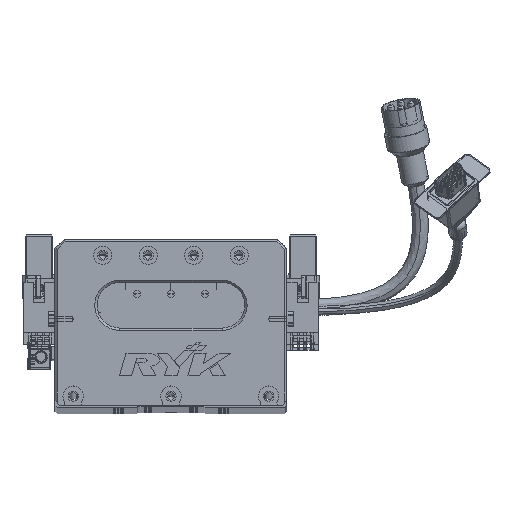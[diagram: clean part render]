
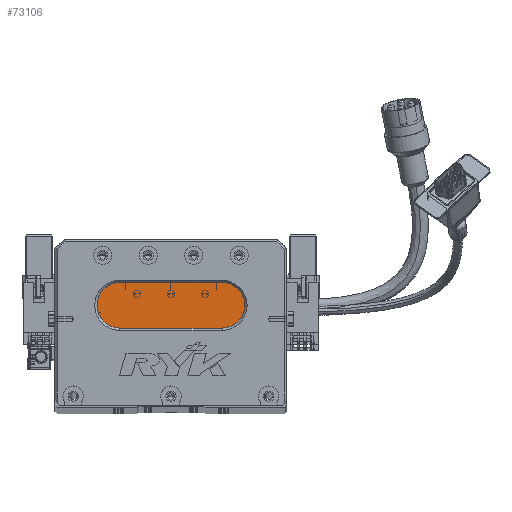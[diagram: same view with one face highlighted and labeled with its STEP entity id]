
A CAD part, top view. The second image highlights one B-rep face of the part: STEP entity #73106.
In plain terms, the highlighted planar face has unit normal (0, 0, 1) as drawn and (0, 0, -1) by its records, which use the part's own axes.
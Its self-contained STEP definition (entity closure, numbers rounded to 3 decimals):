
#4374 = VERTEX_POINT ( 'NONE', #30624 ) ;
#4600 = DIRECTION ( 'NONE',  ( -1., 0., 0. ) ) ;
#7399 = ORIENTED_EDGE ( 'NONE', *, *, #49089, .T. ) ;
#12083 = DIRECTION ( 'NONE',  ( -1., 0., 0. ) ) ;
#12478 = AXIS2_PLACEMENT_3D ( 'NONE', #56555, #67224, #4600 ) ;
#12874 = CIRCLE ( 'NONE', #29662, 10. ) ;
#18432 = DIRECTION ( 'NONE',  ( 0., 0., -1. ) ) ;
#20277 = ORIENTED_EDGE ( 'NONE', *, *, #25571, .T. ) ;
#22268 = VERTEX_POINT ( 'NONE', #38554 ) ;
#25571 = EDGE_CURVE ( 'NONE', #42929, #22268, #52075, .T. ) ;
#26838 = ORIENTED_EDGE ( 'NONE', *, *, #39830, .T. ) ;
#27688 = VECTOR ( 'NONE', #40328, 1000. ) ;
#27948 = ORIENTED_EDGE ( 'NONE', *, *, #33557, .T. ) ;
#29662 = AXIS2_PLACEMENT_3D ( 'NONE', #33204, #44278, #50345 ) ;
#30624 = CARTESIAN_POINT ( 'NONE',  ( 73.5, 34., 13. ) ) ;
#31904 = CARTESIAN_POINT ( 'NONE',  ( 28.5, 34., 13. ) ) ;
#32413 = CARTESIAN_POINT ( 'NONE',  ( 73.5, 34., 13. ) ) ;
#33204 = CARTESIAN_POINT ( 'NONE',  ( 28.5, 44., 13. ) ) ;
#33557 = EDGE_CURVE ( 'NONE', #60855, #74280, #68810, .T. ) ;
#33868 = CARTESIAN_POINT ( 'NONE',  ( 28.5, 54., 13. ) ) ;
#36289 = AXIS2_PLACEMENT_3D ( 'NONE', #52980, #18432, #47177 ) ;
#38554 = CARTESIAN_POINT ( 'NONE',  ( 73.5, 54., 13. ) ) ;
#39830 = EDGE_CURVE ( 'NONE', #22268, #4374, #49416, .T. ) ;
#40292 = DIRECTION ( 'NONE',  ( 0., 0., -1. ) ) ;
#40328 = DIRECTION ( 'NONE',  ( 1., 0., 0. ) ) ;
#40378 = AXIS2_PLACEMENT_3D ( 'NONE', #69666, #40292, #12083 ) ;
#42929 = VERTEX_POINT ( 'NONE', #33868 ) ;
#44278 = DIRECTION ( 'NONE',  ( 0., 0., -1. ) ) ;
#47177 = DIRECTION ( 'NONE',  ( -1., 0., 0. ) ) ;
#48824 = ORIENTED_EDGE ( 'NONE', *, *, #49585, .T. ) ;
#49089 = EDGE_CURVE ( 'NONE', #74280, #42929, #12874, .T. ) ;
#49416 = CIRCLE ( 'NONE', #12478, 10. ) ;
#49585 = EDGE_CURVE ( 'NONE', #4374, #60855, #64294, .T. ) ;
#50345 = DIRECTION ( 'NONE',  ( -1., 0., 0. ) ) ;
#50540 = DIRECTION ( 'NONE',  ( -1., 0., 0. ) ) ;
#52075 = LINE ( 'NONE', #74554, #27688 ) ;
#52980 = CARTESIAN_POINT ( 'NONE',  ( 73.5, 44., 13. ) ) ;
#56555 = CARTESIAN_POINT ( 'NONE',  ( 73.5, 44., 13. ) ) ;
#58833 = PLANE ( 'NONE',  #36289 ) ;
#58937 = CARTESIAN_POINT ( 'NONE',  ( 18.5, 44., 13. ) ) ;
#59520 = FACE_OUTER_BOUND ( 'NONE', #71557, .T. ) ;
#60855 = VERTEX_POINT ( 'NONE', #31904 ) ;
#64294 = LINE ( 'NONE', #32413, #67841 ) ;
#67224 = DIRECTION ( 'NONE',  ( 0., 0., -1. ) ) ;
#67841 = VECTOR ( 'NONE', #50540, 1000. ) ;
#68810 = CIRCLE ( 'NONE', #40378, 10. ) ;
#69666 = CARTESIAN_POINT ( 'NONE',  ( 28.5, 44., 13. ) ) ;
#71557 = EDGE_LOOP ( 'NONE', ( #26838, #48824, #27948, #7399, #20277 ) ) ;
#73106 = ADVANCED_FACE ( 'NONE', ( #59520 ), #58833, .T. ) ;
#74280 = VERTEX_POINT ( 'NONE', #58937 ) ;
#74554 = CARTESIAN_POINT ( 'NONE',  ( 73.5, 54., 13. ) ) ;
